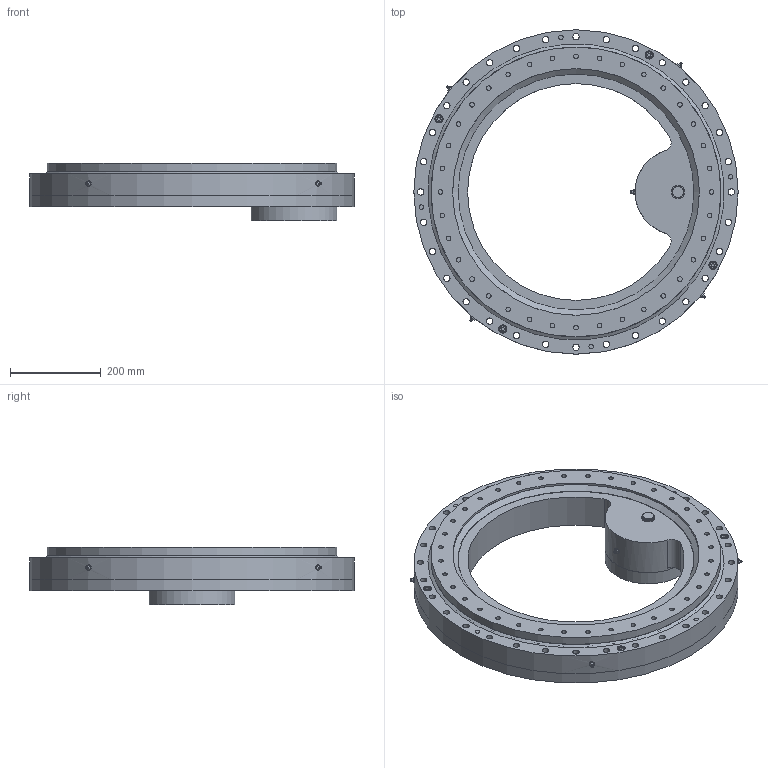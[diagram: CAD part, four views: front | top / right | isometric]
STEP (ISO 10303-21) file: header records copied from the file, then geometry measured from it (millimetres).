
FILE_DESCRIPTION(/* description */ ('STEP AP214'),/* implementation_level */ '2;1');
FILE_NAME(/* name */ '\\Serwer-ad\dnia$\dnia_tomasz_tb\Desktop\Tomcio\1. Cenniki + katalogi + materiały\U- Transmission\Katalogi 2023\Wersja NATECH DRV\Inner gear - slew drive\Our inner gear slew drive STEP\PT-M-0641-I-B-S.stp',/* time_stamp */ '2024-04-30T10:34:05+02:00',/* author */ ('dnia_tomasz_tb'),/* organization */ (''),/* preprocessor_version */ 'ST-DEVELOPER v19',/* originating_system */ 'Autodesk Inventor 2023',/* authorisation */ '');
FILE_SCHEMA (('AUTOMOTIVE_DESIGN { 1 0 10303 214 3 1 1 }'));
Length unit declared in the file: millimetre
Products named in the file (1): PT-M-0641-I-B-S
Bounding box: 715 x 715 x 126 mm (x, y, z)
Surface area: 1236585.2 mm2 (no closed solid volume)
Topology: 0 solids, 47 shells, 353 faces, 1222 edges, 866 vertices
Faces by surface type: plane 157, cylinder 140, torus 22, cone 20, sphere 14
Full cylindrical faces by diameter (mm): 2 x1, 8.5 x8, 10.2 x36, 14 x32, 16 x32, 18 x12, 26 x1, 30 x1, 65 x1, 80 x1, 88.333 x1, 130 x1, 190 x1, 544 x1, 639 x1, 715 x2
Entity records: 17138 total; most frequent: CARTESIAN_POINT 5594, DIRECTION 2420, ORIENTED_EDGE 1879, EDGE_CURVE 1187, AXIS2_PLACEMENT_3D 959, VERTEX_POINT 866, EDGE_LOOP 633, CIRCLE 605
